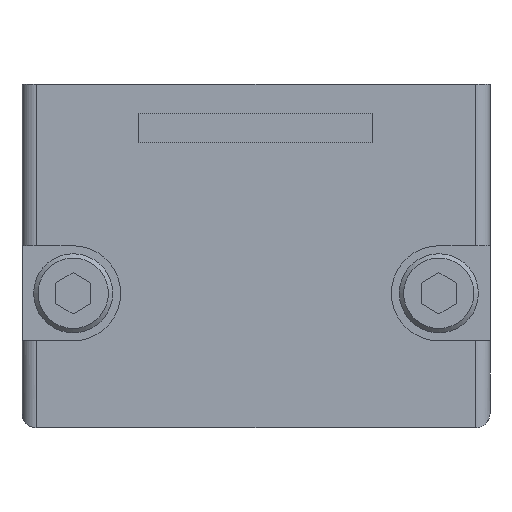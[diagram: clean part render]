
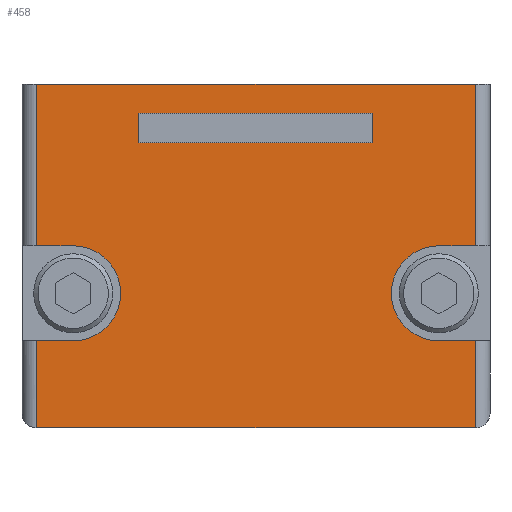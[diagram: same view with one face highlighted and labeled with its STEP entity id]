
A CAD part, front view. The second image highlights one B-rep face of the part: STEP entity #458.
In plain terms, the highlighted planar face has unit normal (0, -1, 0).
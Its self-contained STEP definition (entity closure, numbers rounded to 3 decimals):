
#458=ADVANCED_FACE('',(#1102,#1103),#1104,.F.);
#1102=FACE_BOUND('',#1974,.T.);
#1103=FACE_OUTER_BOUND('',#1975,.T.);
#1104=PLANE('',#1976);
#1974=EDGE_LOOP('',(#3274,#3275,#3276,#3277));
#1975=EDGE_LOOP('',(#3278,#3279,#3280,#3281,#3282,#3283,#3284,#3285,#3286,#3287,#3288,#3289));
#1976=AXIS2_PLACEMENT_3D('',#3290,#3291,#3292);
#3274=ORIENTED_EDGE('',*,*,#4781,.F.);
#3275=ORIENTED_EDGE('',*,*,#4715,.T.);
#3276=ORIENTED_EDGE('',*,*,#4684,.T.);
#3277=ORIENTED_EDGE('',*,*,#4782,.T.);
#3278=ORIENTED_EDGE('',*,*,#4744,.T.);
#3279=ORIENTED_EDGE('',*,*,#4783,.F.);
#3280=ORIENTED_EDGE('',*,*,#4711,.T.);
#3281=ORIENTED_EDGE('',*,*,#4784,.T.);
#3282=ORIENTED_EDGE('',*,*,#4785,.T.);
#3283=ORIENTED_EDGE('',*,*,#4706,.T.);
#3284=ORIENTED_EDGE('',*,*,#4697,.T.);
#3285=ORIENTED_EDGE('',*,*,#4729,.F.);
#3286=ORIENTED_EDGE('',*,*,#4778,.T.);
#3287=ORIENTED_EDGE('',*,*,#4689,.T.);
#3288=ORIENTED_EDGE('',*,*,#4786,.T.);
#3289=ORIENTED_EDGE('',*,*,#4423,.T.);
#3290=CARTESIAN_POINT('',(16.0,-38.0,-7.9));
#3291=DIRECTION('',(-0.0,1.0,0.0));
#3292=DIRECTION('',(1.0,0.0,0.0));
#4423=EDGE_CURVE('',#5127,#5125,#5128,.T.);
#4684=EDGE_CURVE('',#5531,#5532,#5533,.T.);
#4689=EDGE_CURVE('',#5540,#5541,#5542,.T.);
#4697=EDGE_CURVE('',#5549,#5553,#5555,.T.);
#4706=EDGE_CURVE('',#5569,#5549,#5570,.T.);
#4711=EDGE_CURVE('',#5578,#5575,#5579,.T.);
#4715=EDGE_CURVE('',#5584,#5531,#5585,.T.);
#4729=EDGE_CURVE('',#5608,#5553,#5610,.T.);
#4744=EDGE_CURVE('',#5125,#5631,#5633,.T.);
#4778=EDGE_CURVE('',#5608,#5540,#5687,.T.);
#4781=EDGE_CURVE('',#5584,#5690,#5691,.T.);
#4782=EDGE_CURVE('',#5532,#5690,#5692,.T.);
#4783=EDGE_CURVE('',#5578,#5631,#5693,.T.);
#4784=EDGE_CURVE('',#5575,#5694,#5695,.T.);
#4785=EDGE_CURVE('',#5694,#5569,#5696,.T.);
#4786=EDGE_CURVE('',#5541,#5127,#5697,.T.);
#5125=VERTEX_POINT('',#6159);
#5127=VERTEX_POINT('',#6161);
#5128=LINE('',#6162,#6163);
#5531=VERTEX_POINT('',#6709);
#5532=VERTEX_POINT('',#6710);
#5533=LINE('',#6711,#6712);
#5540=VERTEX_POINT('',#6722);
#5541=VERTEX_POINT('',#6723);
#5542=LINE('',#6724,#6725);
#5549=VERTEX_POINT('',#6734);
#5553=VERTEX_POINT('',#6739);
#5555=LINE('',#6741,#6742);
#5569=VERTEX_POINT('',#6757);
#5570=LINE('',#6758,#6759);
#5575=VERTEX_POINT('',#6766);
#5578=VERTEX_POINT('',#6769);
#5579=LINE('',#6770,#6771);
#5584=VERTEX_POINT('',#6777);
#5585=LINE('',#6778,#6779);
#5608=VERTEX_POINT('',#6806);
#5610=LINE('',#6809,#6810);
#5631=VERTEX_POINT('',#6835);
#5633=LINE('',#6837,#6838);
#5687=LINE('',#6912,#6913);
#5690=VERTEX_POINT('',#6916);
#5691=LINE('',#6917,#6918);
#5692=LINE('',#6919,#6920);
#5693=LINE('',#6921,#6922);
#5694=VERTEX_POINT('',#6923);
#5695=LINE('',#6924,#6925);
#5696=CIRCLE('',#6926,3.25);
#5697=CIRCLE('',#6927,3.25);
#6159=CARTESIAN_POINT('',(15.0,-38.0,4.55));
#6161=CARTESIAN_POINT('',(12.5,-38.0,4.55));
#6162=CARTESIAN_POINT('',(12.5,-38.0,4.55));
#6163=VECTOR('',#7494,1.0);
#6709=CARTESIAN_POINT('',(8.0,-38.0,11.6));
#6710=CARTESIAN_POINT('',(-8.0,-38.0,11.6));
#6711=CARTESIAN_POINT('',(8.0,-38.0,11.6));
#6712=VECTOR('',#7776,1.0);
#6722=CARTESIAN_POINT('',(15.0,-38.0,-1.95));
#6723=CARTESIAN_POINT('',(12.5,-38.0,-1.95));
#6724=CARTESIAN_POINT('',(16.0,-38.0,-1.95));
#6725=VECTOR('',#7780,1.0);
#6734=CARTESIAN_POINT('',(-15.0,-38.0,-1.95));
#6739=CARTESIAN_POINT('',(-15.0,-38.0,-7.9));
#6741=CARTESIAN_POINT('',(-15.0,-38.0,-7.9));
#6742=VECTOR('',#7793,1.0);
#6757=CARTESIAN_POINT('',(-12.5,-38.0,-1.95));
#6758=CARTESIAN_POINT('',(-12.5,-38.0,-1.95));
#6759=VECTOR('',#7807,1.0);
#6766=CARTESIAN_POINT('',(-15.0,-38.0,4.55));
#6769=CARTESIAN_POINT('',(-15.0,-38.0,15.6));
#6770=CARTESIAN_POINT('',(-15.0,-38.0,-7.9));
#6771=VECTOR('',#7813,1.0);
#6777=CARTESIAN_POINT('',(8.0,-38.0,13.6));
#6778=CARTESIAN_POINT('',(8.0,-38.0,13.6));
#6779=VECTOR('',#7818,1.0);
#6806=CARTESIAN_POINT('',(15.0,-38.0,-7.9));
#6809=CARTESIAN_POINT('',(16.0,-38.0,-7.9));
#6810=VECTOR('',#7845,1.0);
#6835=CARTESIAN_POINT('',(15.0,-38.0,15.6));
#6837=CARTESIAN_POINT('',(15.0,-38.0,-7.9));
#6838=VECTOR('',#7865,1.0);
#6912=CARTESIAN_POINT('',(15.0,-38.0,-7.9));
#6913=VECTOR('',#7901,1.0);
#6916=CARTESIAN_POINT('',(-8.0,-38.0,13.6));
#6917=CARTESIAN_POINT('',(16.0,-38.0,13.6));
#6918=VECTOR('',#7905,1.0);
#6919=CARTESIAN_POINT('',(-8.0,-38.0,11.6));
#6920=VECTOR('',#7906,1.0);
#6921=CARTESIAN_POINT('',(-16.0,-38.0,15.6));
#6922=VECTOR('',#7907,1.0);
#6923=CARTESIAN_POINT('',(-12.5,-38.0,4.55));
#6924=CARTESIAN_POINT('',(-16.0,-38.0,4.55));
#6925=VECTOR('',#7908,1.0);
#6926=AXIS2_PLACEMENT_3D('',#7909,#7910,#7911);
#6927=AXIS2_PLACEMENT_3D('',#7912,#7913,#7914);
#7494=DIRECTION('',(1.0,0.0,0.0));
#7776=DIRECTION('',(-1.0,0.0,0.0));
#7780=DIRECTION('',(-1.0,0.0,0.0));
#7793=DIRECTION('',(0.0,0.0,-1.0));
#7807=DIRECTION('',(-1.0,0.0,0.0));
#7813=DIRECTION('',(0.0,0.0,-1.0));
#7818=DIRECTION('',(0.0,0.0,-1.0));
#7845=DIRECTION('',(-1.0,0.0,0.0));
#7865=DIRECTION('',(0.0,0.0,1.0));
#7901=DIRECTION('',(0.0,0.0,1.0));
#7905=DIRECTION('',(-1.0,0.0,0.0));
#7906=DIRECTION('',(0.0,0.0,1.0));
#7907=DIRECTION('',(1.0,0.0,0.0));
#7908=DIRECTION('',(1.0,0.0,0.0));
#7909=CARTESIAN_POINT('',(-12.5,-38.0,1.3));
#7910=DIRECTION('',(0.0,1.0,0.0));
#7911=DIRECTION('',(-1.0,0.0,0.0));
#7912=CARTESIAN_POINT('',(12.5,-38.0,1.3));
#7913=DIRECTION('',(0.0,1.0,0.0));
#7914=DIRECTION('',(-1.0,0.0,0.0));
